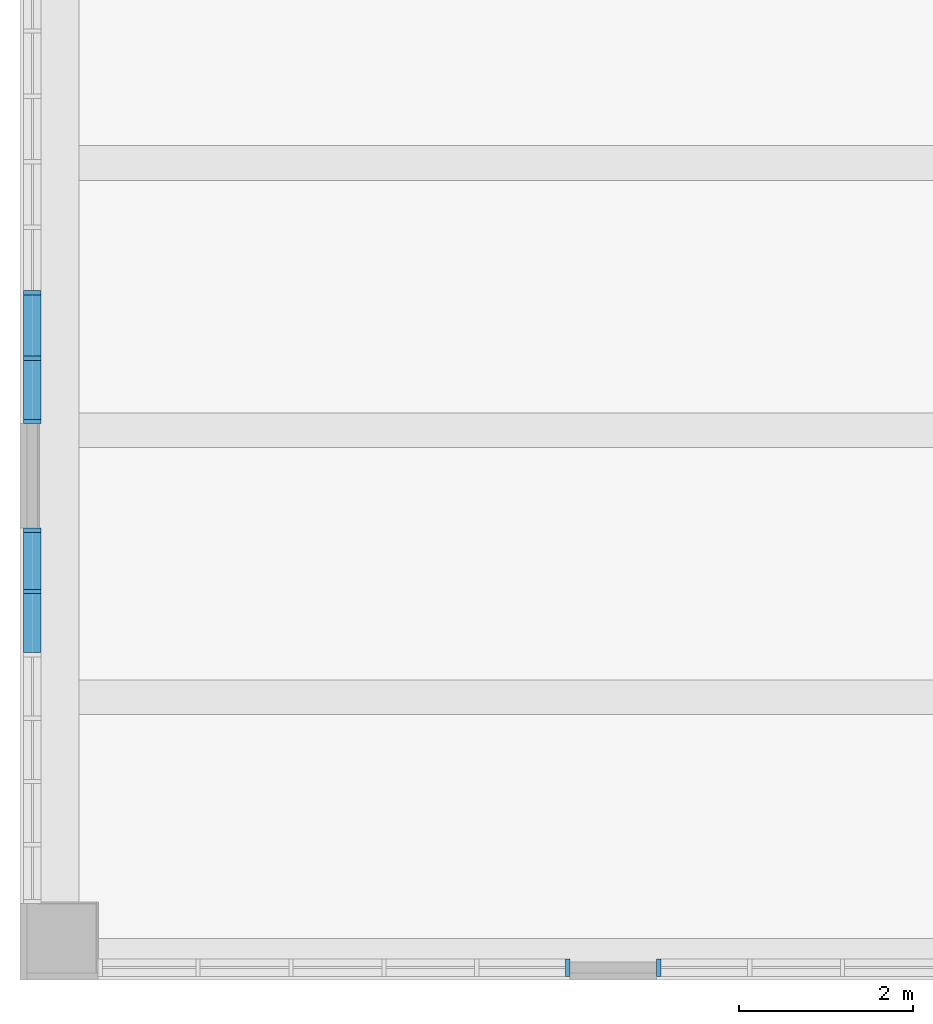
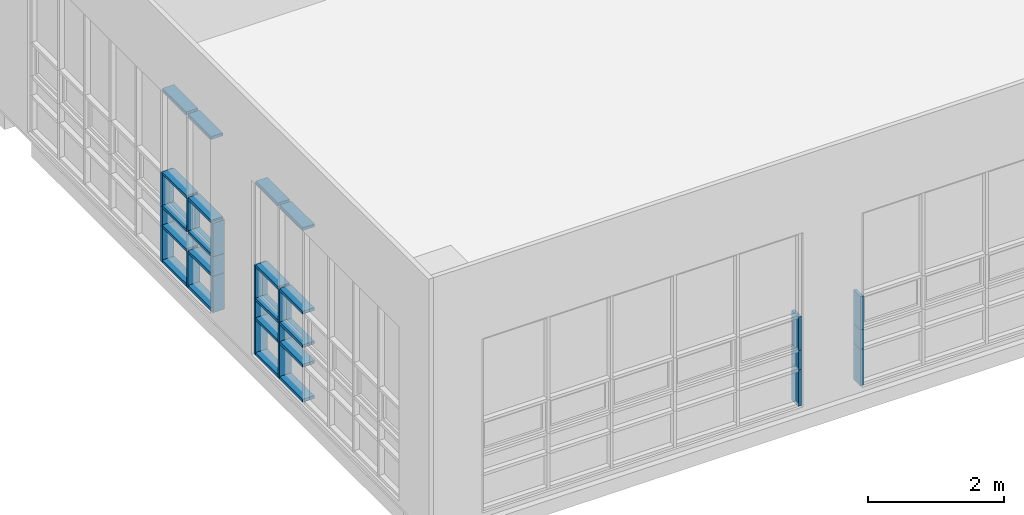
# One storey, part 13 of 74: 40 members, 4 elements without a shape of their own.
"""IFC2X3 building model written with IfcOpenShell, lengths in millimetres."""

from ifc_helpers import new_model, entity, si_unit, converted_unit, derived_unit, direction, frame, origin, origin_2d_with_axis, place, context, subcontext, project, spatial, rectangle, extrude, source, transform, mapped, material, type_object, type_shapes, element, aggregate, save


model = new_model("IFC2X3")

# Units and contexts
model_context = context("Model", 3, precision=0.01, world=origin(), true_north=direction((6.123031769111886e-17, 1.0)))
body_context = subcontext(model_context, "Body", "Model", "MODEL_VIEW")
ifc_project = project(units=[si_unit("LENGTHUNIT", "METRE", prefix="MILLI"), si_unit("AREAUNIT", "SQUARE_METRE"), si_unit("VOLUMEUNIT", "CUBIC_METRE"), converted_unit("PLANEANGLEUNIT", "DEGREE", entity("IfcRatioMeasure", 0.017453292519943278), si_unit("PLANEANGLEUNIT", "RADIAN"), dimensions=[0, 0, 0, 0, 0, 0, 0]), si_unit("MASSUNIT", "GRAM", prefix="KILO"), derived_unit("MASSDENSITYUNIT", [(si_unit("MASSUNIT", "GRAM", prefix="KILO"), 1), (si_unit("LENGTHUNIT", "METRE"), -3)]), derived_unit("MOMENTOFINERTIAUNIT", [(si_unit("LENGTHUNIT", "METRE"), 4)]), si_unit("TIMEUNIT", "SECOND"), si_unit("FREQUENCYUNIT", "HERTZ"), si_unit("THERMODYNAMICTEMPERATUREUNIT", "DEGREE_CELSIUS"), derived_unit("THERMALTRANSMITTANCEUNIT", [(si_unit("MASSUNIT", "GRAM", prefix="KILO"), 1), (si_unit("THERMODYNAMICTEMPERATUREUNIT", "KELVIN"), -1), (si_unit("TIMEUNIT", "SECOND"), -3)]), derived_unit("VOLUMETRICFLOWRATEUNIT", [(si_unit("LENGTHUNIT", "METRE"), 3), (si_unit("TIMEUNIT", "SECOND"), -1)]), derived_unit("MASSFLOWRATEUNIT", [(si_unit("MASSUNIT", "GRAM", prefix="KILO"), 1), (si_unit("TIMEUNIT", "SECOND"), -1)]), derived_unit("ROTATIONALFREQUENCYUNIT", [(si_unit("TIMEUNIT", "SECOND"), -1)]), si_unit("ELECTRICCURRENTUNIT", "AMPERE"), si_unit("ELECTRICVOLTAGEUNIT", "VOLT"), si_unit("POWERUNIT", "WATT"), si_unit("FORCEUNIT", "NEWTON", prefix="KILO"), si_unit("ILLUMINANCEUNIT", "LUX"), si_unit("LUMINOUSFLUXUNIT", "LUMEN"), si_unit("LUMINOUSINTENSITYUNIT", "CANDELA"), derived_unit("USERDEFINED", [(si_unit("MASSUNIT", "GRAM", prefix="KILO"), -1), (si_unit("LENGTHUNIT", "METRE"), -2), (si_unit("TIMEUNIT", "SECOND"), 3), (si_unit("LUMINOUSFLUXUNIT", "LUMEN"), 1)]), derived_unit("SOUNDPOWERUNIT", [(si_unit("MASSUNIT", "GRAM", prefix="KILO"), 1), (si_unit("LENGTHUNIT", "METRE"), 2), (si_unit("TIMEUNIT", "SECOND"), -3)]), derived_unit("SOUNDPRESSUREUNIT", [(si_unit("MASSUNIT", "GRAM", prefix="KILO"), 1), (si_unit("LENGTHUNIT", "METRE"), -1), (si_unit("TIMEUNIT", "SECOND"), -2)]), derived_unit("LINEARVELOCITYUNIT", [(si_unit("LENGTHUNIT", "METRE"), 1), (si_unit("TIMEUNIT", "SECOND"), -1)]), si_unit("PRESSUREUNIT", "PASCAL"), derived_unit("USERDEFINED", [(si_unit("LENGTHUNIT", "METRE"), -2), (si_unit("MASSUNIT", "GRAM", prefix="KILO"), 1), (si_unit("TIMEUNIT", "SECOND"), -2)]), derived_unit("LINEARFORCEUNIT", [(si_unit("MASSUNIT", "GRAM", prefix="KILO"), 1), (si_unit("LENGTHUNIT", "METRE"), 1), (si_unit("TIMEUNIT", "SECOND"), -2), (si_unit("LENGTHUNIT", "METRE"), -1)]), derived_unit("PLANARFORCEUNIT", [(si_unit("MASSUNIT", "GRAM", prefix="KILO"), 1), (si_unit("LENGTHUNIT", "METRE"), 1), (si_unit("TIMEUNIT", "SECOND"), -2), (si_unit("LENGTHUNIT", "METRE"), -2)])], contexts=[model_context])

# Site, building, storey
site_placement = place(None, frame((-14167.972527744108, -657.2125860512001, 0.0)))
site = spatial("IfcSite", under=ifc_project, at=site_placement, Name="Default", CompositionType="ELEMENT")
building_placement = place(site_placement, origin())
building = spatial("IfcBuilding", under=site, at=building_placement, Name="Sample Building", CompositionType="ELEMENT")
storey_placement = place(building_placement, frame((0.0, 0.0, 4800.0)))
storey = spatial("IfcBuildingStorey", under=building, at=storey_placement, Name="지상 2층", CompositionType="ELEMENT", Elevation=4800.000000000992)

# Curtain wall, members
curtain_wall_type = type_object("IfcCurtainWallType", Name="커튼월:CW112-스테인리스 스틸 커튼월", PredefinedType="NOTDEFINED")
curtain_wall_1_placement = place(storey_placement, frame((0.0, 0.0, -4800.0)))
curtain_wall_1 = element("IfcCurtainWall", 1, at=curtain_wall_1_placement, inside=storey, type_object=curtain_wall_type, Name="커튼월:CW112-스테인리스 스틸 커튼월", ObjectType="커튼월:CW112-스테인리스 스틸 커튼월")
ifc_material = material(Name="<Unnamed>")
member_type_1 = type_object("IfcMemberType", Name="직사각형 멀리언:CW200-직사각형 멀리언 50x200mm", PredefinedType="MULLION", material=ifc_material)
shared_shape_1 = source(origin(), body_context, "Body", "SweptSolid", [
    extrude(rectangle(XDim=200.0, YDim=50.0, at=origin_2d_with_axis()), frame((-25.0, 0.0, -600.0), z_axis=(0.0, 0.0, 1.0), x_axis=(0.0, -1.0, 0.0)), (0.0, 0.0, 1.0), 600.0),
])
type_shapes(member_type_1, [shared_shape_1])
member_1_placement = place(curtain_wall_1_placement, frame((14129.839654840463, 5679.474664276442, 6480.0), z_axis=(0.0, 0.0, 1.0), x_axis=(0.0, 1.0, 0.0)))
member_1 = element("IfcMember", 2, at=member_1_placement, type_object=member_type_1, material=ifc_material, Name="직사각형 멀리언:CW200-직사각형 멀리언 50x200mm", ObjectType="직사각형 멀리언:CW200-직사각형 멀리언 50x200mm", context=body_context, shape_type="MappedRepresentation", body=[
    mapped(shared_shape_1, transform((0.0, 0.0, 0.0), scale=1.0)),
])
member_type_2 = type_object("IfcMemberType", Name="직사각형 멀리언:CW200-직사각형 멀리언 50x200mm", PredefinedType="MULLION", material=ifc_material)
shared_shape_2 = source(origin(), body_context, "Body", "SweptSolid", [
    extrude(rectangle(XDim=200.0, YDim=50.0, at=origin_2d_with_axis()), frame((0.0, 0.0, -650.0), z_axis=(0.0, 0.0, 1.0), x_axis=(0.0, -1.0, 0.0)), (0.0, 0.0, 1.0), 650.0000000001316),
])
type_shapes(member_type_2, [shared_shape_2])
member_2_placement = place(curtain_wall_1_placement, frame((14129.839654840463, 4950.307997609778, 4880.0), z_axis=(0.0, 0.0, -1.0), x_axis=(0.0, -1.0, 0.0)))
member_2 = element("IfcMember", 3, at=member_2_placement, type_object=member_type_2, material=ifc_material, Name="직사각형 멀리언:CW200-직사각형 멀리언 50x200mm", ObjectType="직사각형 멀리언:CW200-직사각형 멀리언 50x200mm", context=body_context, shape_type="MappedRepresentation", body=[
    mapped(shared_shape_2, transform((0.0, 0.0, 0.0), scale=1.0)),
])
member_type_3 = type_object("IfcMemberType", Name="직사각형 멀리언:CW200-직사각형 멀리언 50x200mm", PredefinedType="MULLION", material=ifc_material)
shared_shape_3 = source(origin(), body_context, "Body", "SweptSolid", [
    extrude(rectangle(XDim=200.0, YDim=50.0, at=origin_2d_with_axis()), frame((-25.0, 0.0, -350.0), z_axis=(0.0, 0.0, 1.0), x_axis=(0.0, -1.0, 0.0)), (0.0, 0.0, 1.0), 350.00000000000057),
])
type_shapes(member_type_3, [shared_shape_3])
member_3_placement = place(curtain_wall_1_placement, frame((14129.839654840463, 5679.474664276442, 5880.0), z_axis=(0.0, 0.0, 1.0), x_axis=(0.0, 1.0, 0.0)))
member_3 = element("IfcMember", 4, at=member_3_placement, type_object=member_type_3, material=ifc_material, Name="직사각형 멀리언:CW200-직사각형 멀리언 50x200mm", ObjectType="직사각형 멀리언:CW200-직사각형 멀리언 50x200mm", context=body_context, shape_type="MappedRepresentation", body=[
    mapped(shared_shape_3, transform((0.0, 0.0, 0.0), scale=1.0)),
])
member_type_4 = type_object("IfcMemberType", Name="직사각형 멀리언:CW200-직사각형 멀리언 50x200mm", PredefinedType="MULLION", material=ifc_material)
shared_shape_4 = source(origin(), body_context, "Body", "SweptSolid", [
    extrude(rectangle(XDim=200.0, YDim=50.0, at=origin_2d_with_axis()), frame((0.0, 0.0, -600.0), z_axis=(0.0, 0.0, 1.0), x_axis=(0.0, -1.0, 0.0)), (0.0, 0.0, 1.0), 600.0),
])
type_shapes(member_type_4, [shared_shape_4])
member_4_placement = place(curtain_wall_1_placement, frame((14129.839654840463, 4950.307997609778, 5880.0), z_axis=(0.0, 0.0, -1.0), x_axis=(0.0, -1.0, 0.0)))
member_4 = element("IfcMember", 5, at=member_4_placement, type_object=member_type_4, material=ifc_material, Name="직사각형 멀리언:CW200-직사각형 멀리언 50x200mm", ObjectType="직사각형 멀리언:CW200-직사각형 멀리언 50x200mm", context=body_context, shape_type="MappedRepresentation", body=[
    mapped(shared_shape_4, transform((0.0, 0.0, 0.0), scale=1.0)),
])
member_type_5 = type_object("IfcMemberType", Name="직사각형 멀리언:CW200-직사각형 멀리언 50x200mm", PredefinedType="MULLION", material=ifc_material)
shared_shape_5 = source(origin(), body_context, "Body", "SweptSolid", [
    extrude(rectangle(XDim=200.0, YDim=50.0, at=origin_2d_with_axis()), frame((-25.0, 0.0, -650.0), z_axis=(0.0, 0.0, 1.0), x_axis=(0.0, -1.0, 0.0)), (0.0, 0.0, 1.0), 650.0000000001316),
])
type_shapes(member_type_5, [shared_shape_5])
member_5_placement = place(curtain_wall_1_placement, frame((14129.839654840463, 5679.474664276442, 5530.0), z_axis=(0.0, 0.0, 1.0), x_axis=(0.0, 1.0, 0.0)))
member_5 = element("IfcMember", 6, at=member_5_placement, type_object=member_type_5, material=ifc_material, Name="직사각형 멀리언:CW200-직사각형 멀리언 50x200mm", ObjectType="직사각형 멀리언:CW200-직사각형 멀리언 50x200mm", context=body_context, shape_type="MappedRepresentation", body=[
    mapped(shared_shape_5, transform((0.0, 0.0, 0.0), scale=1.0)),
])
member_type_6 = type_object("IfcMemberType", Name="직사각형 멀리언:CW200-직사각형 멀리언 50x200mm", PredefinedType="MULLION", material=ifc_material)
shared_shape_6 = source(origin(), body_context, "Body", "SweptSolid", [
    extrude(rectangle(XDim=200.0, YDim=50.0, at=origin_2d_with_axis()), frame((0.0, 0.0, -350.0), z_axis=(0.0, 0.0, 1.0), x_axis=(0.0, -1.0, 0.0)), (0.0, 0.0, 1.0), 350.00000000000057),
])
type_shapes(member_type_6, [shared_shape_6])
member_6_placement = place(curtain_wall_1_placement, frame((14129.839654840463, 4950.307997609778, 5530.0), z_axis=(0.0, 0.0, -1.0), x_axis=(0.0, -1.0, 0.0)))
member_6 = element("IfcMember", 7, at=member_6_placement, type_object=member_type_6, material=ifc_material, Name="직사각형 멀리언:CW200-직사각형 멀리언 50x200mm", ObjectType="직사각형 멀리언:CW200-직사각형 멀리언 50x200mm", context=body_context, shape_type="MappedRepresentation", body=[
    mapped(shared_shape_6, transform((0.0, 0.0, 0.0), scale=1.0)),
])

# Curtain wall, member
curtain_wall_2_placement = place(storey_placement, frame((0.0, 0.0, -4800.0)))
curtain_wall_2 = element("IfcCurtainWall", 8, at=curtain_wall_2_placement, inside=storey, type_object=curtain_wall_type, Name="커튼월:CW112-스테인리스 스틸 커튼월", ObjectType="커튼월:CW112-스테인리스 스틸 커튼월")
member_type_7 = type_object("IfcMemberType", Name="직사각형 멀리언:CW200-직사각형 멀리언 50x200mm", PredefinedType="MULLION", material=ifc_material)
shared_shape_7 = source(origin(), body_context, "Body", "SweptSolid", [
    extrude(rectangle(XDim=200.0, YDim=50.0, at=origin_2d_with_axis()), frame((-25.0, 0.0, -650.0), z_axis=(0.0, 0.0, 1.0), x_axis=(0.0, -1.0, 0.0)), (0.0, 0.0, 1.0), 650.0000000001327),
])
type_shapes(member_type_7, [shared_shape_7])
member_7_placement = place(curtain_wall_2_placement, frame((14130.47257087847, 6882.21227524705, 4880.0), z_axis=(0.0, 0.0, -1.0), x_axis=(0.0, -1.0, 0.0)))
member_7 = element("IfcMember", 9, at=member_7_placement, type_object=member_type_7, material=ifc_material, Name="직사각형 멀리언:CW200-직사각형 멀리언 50x200mm", ObjectType="직사각형 멀리언:CW200-직사각형 멀리언 50x200mm", context=body_context, shape_type="MappedRepresentation", body=[
    mapped(shared_shape_7, transform((0.0, 0.0, 0.0), scale=1.0)),
])

curtain_wall_3_placement = place(storey_placement, frame((0.0, 0.0, -4800.0)))
curtain_wall_3 = element("IfcCurtainWall", 10, at=curtain_wall_3_placement, inside=storey, type_object=curtain_wall_type, Name="커튼월:CW112-스테인리스 스틸 커튼월", ObjectType="커튼월:CW112-스테인리스 스틸 커튼월")
member_8_placement = place(curtain_wall_3_placement, frame((20317.99848593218, 619.7122951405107, 4880.0), z_axis=(0.0, 0.0, -1.0), x_axis=(1.0, 0.0, 0.0)))
member_8 = element("IfcMember", 11, at=member_8_placement, type_object=member_type_7, material=ifc_material, Name="직사각형 멀리언:CW200-직사각형 멀리언 50x200mm", ObjectType="직사각형 멀리언:CW200-직사각형 멀리언 50x200mm", context=body_context, shape_type="MappedRepresentation", body=[
    mapped(shared_shape_7, transform((0.0, 0.0, 0.0), scale=1.0)),
])

# Member
member_type_8 = type_object("IfcMemberType", Name="직사각형 멀리언:CW200-직사각형 멀리언 50x200mm", PredefinedType="MULLION", material=ifc_material)
shared_shape_8 = source(origin(), body_context, "Body", "SweptSolid", [
    extrude(rectangle(XDim=200.0, YDim=50.0, at=origin_2d_with_axis()), frame((0.0, 0.0, -650.0), z_axis=(0.0, 0.0, 1.0), x_axis=(0.0, -1.0, 0.0)), (0.0, 0.0, 1.0), 650.0000000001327),
])
type_shapes(member_type_8, [shared_shape_8])
member_9_placement = place(curtain_wall_2_placement, frame((14130.472570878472, 8389.35513238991, 4880.0), z_axis=(0.0, 0.0, -1.0), x_axis=(0.0, -1.0, 0.0)))
member_9 = element("IfcMember", 12, at=member_9_placement, type_object=member_type_8, material=ifc_material, Name="직사각형 멀리언:CW200-직사각형 멀리언 50x200mm", ObjectType="직사각형 멀리언:CW200-직사각형 멀리언 50x200mm", context=body_context, shape_type="MappedRepresentation", body=[
    mapped(shared_shape_8, transform((0.0, 0.0, 0.0), scale=1.0)),
])

member_10_placement = place(curtain_wall_2_placement, frame((14130.472570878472, 7635.783703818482, 4880.0), z_axis=(0.0, 0.0, -1.0), x_axis=(0.0, -1.0, 0.0)))
member_10 = element("IfcMember", 13, at=member_10_placement, type_object=member_type_8, material=ifc_material, Name="직사각형 멀리언:CW200-직사각형 멀리언 50x200mm", ObjectType="직사각형 멀리언:CW200-직사각형 멀리언 50x200mm", context=body_context, shape_type="MappedRepresentation", body=[
    mapped(shared_shape_8, transform((0.0, 0.0, 0.0), scale=1.0)),
])

# Curtain wall, member
curtain_wall_4_placement = place(storey_placement, frame((0.0, 0.0, -4800.0)))
curtain_wall_4 = element("IfcCurtainWall", 14, at=curtain_wall_4_placement, inside=storey, type_object=curtain_wall_type, Name="커튼월:CW112-스테인리스 스틸 커튼월", ObjectType="커튼월:CW112-스테인리스 스틸 커튼월")
member_type_9 = type_object("IfcMemberType", Name="직사각형 멀리언:CW200-직사각형 멀리언 50x200mm", PredefinedType="MULLION", material=ifc_material)
shared_shape_9 = source(origin(), body_context, "Body", "SweptSolid", [
    extrude(rectangle(XDim=200.0, YDim=50.0, at=origin_2d_with_axis()), frame((-25.0, 0.0, -600.0), z_axis=(0.0, 0.0, 1.0), x_axis=(0.0, -1.0, 0.0)), (0.0, 0.0, 1.0), 600.0),
])
type_shapes(member_type_9, [shared_shape_9])
member_11_placement = place(curtain_wall_4_placement, frame((21317.857532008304, 619.7122951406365, 6480.0), z_axis=(0.0, 0.0, 1.0), x_axis=(-1.0, 0.0, 0.0)))
member_11 = element("IfcMember", 15, at=member_11_placement, type_object=member_type_9, material=ifc_material, Name="직사각형 멀리언:CW200-직사각형 멀리언 50x200mm", ObjectType="직사각형 멀리언:CW200-직사각형 멀리언 50x200mm", context=body_context, shape_type="MappedRepresentation", body=[
    mapped(shared_shape_9, transform((0.0, 0.0, 0.0), scale=1.0)),
])

# Member
member_type_10 = type_object("IfcMemberType", Name="직사각형 멀리언:CW200-직사각형 멀리언 50x200mm", PredefinedType="MULLION", material=ifc_material)
shared_shape_10 = source(origin(), body_context, "Body", "SweptSolid", [
    extrude(rectangle(XDim=200.0, YDim=50.0, at=origin_2d_with_axis()), frame((-25.0, 0.0, -600.0), z_axis=(0.0, 0.0, 1.0), x_axis=(0.0, -1.0, 0.0)), (0.0, 0.0, 1.0), 600.0),
])
type_shapes(member_type_10, [shared_shape_10])
member_12_placement = place(curtain_wall_2_placement, frame((14130.47257087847, 6882.21227524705, 5880.0), z_axis=(0.0, 0.0, -1.0), x_axis=(0.0, -1.0, 0.0)))
member_12 = element("IfcMember", 16, at=member_12_placement, type_object=member_type_10, material=ifc_material, Name="직사각형 멀리언:CW200-직사각형 멀리언 50x200mm", ObjectType="직사각형 멀리언:CW200-직사각형 멀리언 50x200mm", context=body_context, shape_type="MappedRepresentation", body=[
    mapped(shared_shape_10, transform((0.0, 0.0, 0.0), scale=1.0)),
])

member_13_placement = place(curtain_wall_3_placement, frame((20317.99848593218, 619.7122951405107, 5880.0), z_axis=(0.0, 0.0, -1.0), x_axis=(1.0, 0.0, 0.0)))
member_13 = element("IfcMember", 17, at=member_13_placement, type_object=member_type_10, material=ifc_material, Name="직사각형 멀리언:CW200-직사각형 멀리언 50x200mm", ObjectType="직사각형 멀리언:CW200-직사각형 멀리언 50x200mm", context=body_context, shape_type="MappedRepresentation", body=[
    mapped(shared_shape_10, transform((0.0, 0.0, 0.0), scale=1.0)),
])

member_type_11 = type_object("IfcMemberType", Name="직사각형 멀리언:CW200-직사각형 멀리언 50x200mm", PredefinedType="MULLION", material=ifc_material)
shared_shape_11 = source(origin(), body_context, "Body", "SweptSolid", [
    extrude(rectangle(XDim=200.0, YDim=50.0, at=origin_2d_with_axis()), frame((-25.0, 0.0, -350.0), z_axis=(0.0, 0.0, 1.0), x_axis=(0.0, -1.0, 0.0)), (0.0, 0.0, 1.0), 349.9999999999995),
])
type_shapes(member_type_11, [shared_shape_11])
member_14_placement = place(curtain_wall_4_placement, frame((21317.857532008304, 619.7122951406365, 5880.0), z_axis=(0.0, 0.0, 1.0), x_axis=(-1.0, 0.0, 0.0)))
member_14 = element("IfcMember", 18, at=member_14_placement, type_object=member_type_11, material=ifc_material, Name="직사각형 멀리언:CW200-직사각형 멀리언 50x200mm", ObjectType="직사각형 멀리언:CW200-직사각형 멀리언 50x200mm", context=body_context, shape_type="MappedRepresentation", body=[
    mapped(shared_shape_11, transform((0.0, 0.0, 0.0), scale=1.0)),
])

member_type_12 = type_object("IfcMemberType", Name="직사각형 멀리언:CW200-직사각형 멀리언 50x200mm", PredefinedType="MULLION", material=ifc_material)
shared_shape_12 = source(origin(), body_context, "Body", "SweptSolid", [
    extrude(rectangle(XDim=200.0, YDim=50.0, at=origin_2d_with_axis()), frame((0.0, 0.0, -600.0), z_axis=(0.0, 0.0, 1.0), x_axis=(0.0, -1.0, 0.0)), (0.0, 0.0, 1.0), 600.0),
])
type_shapes(member_type_12, [shared_shape_12])
member_15_placement = place(curtain_wall_2_placement, frame((14130.472570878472, 8389.35513238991, 5880.0), z_axis=(0.0, 0.0, -1.0), x_axis=(0.0, -1.0, 0.0)))
member_15 = element("IfcMember", 19, at=member_15_placement, type_object=member_type_12, material=ifc_material, Name="직사각형 멀리언:CW200-직사각형 멀리언 50x200mm", ObjectType="직사각형 멀리언:CW200-직사각형 멀리언 50x200mm", context=body_context, shape_type="MappedRepresentation", body=[
    mapped(shared_shape_12, transform((0.0, 0.0, 0.0), scale=1.0)),
])

member_16_placement = place(curtain_wall_2_placement, frame((14130.472570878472, 7635.783703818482, 5880.0), z_axis=(0.0, 0.0, -1.0), x_axis=(0.0, -1.0, 0.0)))
member_16 = element("IfcMember", 20, at=member_16_placement, type_object=member_type_12, material=ifc_material, Name="직사각형 멀리언:CW200-직사각형 멀리언 50x200mm", ObjectType="직사각형 멀리언:CW200-직사각형 멀리언 50x200mm", context=body_context, shape_type="MappedRepresentation", body=[
    mapped(shared_shape_12, transform((0.0, 0.0, 0.0), scale=1.0)),
])

member_type_13 = type_object("IfcMemberType", Name="직사각형 멀리언:CW200-직사각형 멀리언 50x200mm", PredefinedType="MULLION", material=ifc_material)
shared_shape_13 = source(origin(), body_context, "Body", "SweptSolid", [
    extrude(rectangle(XDim=200.0, YDim=50.0, at=origin_2d_with_axis()), frame((-25.0, 0.0, -350.0), z_axis=(0.0, 0.0, 1.0), x_axis=(0.0, -1.0, 0.0)), (0.0, 0.0, 1.0), 349.9999999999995),
])
type_shapes(member_type_13, [shared_shape_13])
member_17_placement = place(curtain_wall_2_placement, frame((14130.47257087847, 6882.21227524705, 5530.0), z_axis=(0.0, 0.0, -1.0), x_axis=(0.0, -1.0, 0.0)))
member_17 = element("IfcMember", 21, at=member_17_placement, type_object=member_type_13, material=ifc_material, Name="직사각형 멀리언:CW200-직사각형 멀리언 50x200mm", ObjectType="직사각형 멀리언:CW200-직사각형 멀리언 50x200mm", context=body_context, shape_type="MappedRepresentation", body=[
    mapped(shared_shape_13, transform((0.0, 0.0, 0.0), scale=1.0)),
])

member_18_placement = place(curtain_wall_3_placement, frame((20317.99848593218, 619.7122951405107, 5530.0), z_axis=(0.0, 0.0, -1.0), x_axis=(1.0, 0.0, 0.0)))
member_18 = element("IfcMember", 22, at=member_18_placement, type_object=member_type_13, material=ifc_material, Name="직사각형 멀리언:CW200-직사각형 멀리언 50x200mm", ObjectType="직사각형 멀리언:CW200-직사각형 멀리언 50x200mm", context=body_context, shape_type="MappedRepresentation", body=[
    mapped(shared_shape_13, transform((0.0, 0.0, 0.0), scale=1.0)),
])

aggregate(curtain_wall_3, [member_8, member_13, member_18])

member_type_14 = type_object("IfcMemberType", Name="직사각형 멀리언:CW200-직사각형 멀리언 50x200mm", PredefinedType="MULLION", material=ifc_material)
shared_shape_14 = source(origin(), body_context, "Body", "SweptSolid", [
    extrude(rectangle(XDim=200.0, YDim=50.0, at=origin_2d_with_axis()), frame((-25.0, 0.0, -650.0), z_axis=(0.0, 0.0, 1.0), x_axis=(0.0, -1.0, 0.0)), (0.0, 0.0, 1.0), 650.0000000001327),
])
type_shapes(member_type_14, [shared_shape_14])
member_19_placement = place(curtain_wall_4_placement, frame((21317.857532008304, 619.7122951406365, 5530.0), z_axis=(0.0, 0.0, 1.0), x_axis=(-1.0, 0.0, 0.0)))
member_19 = element("IfcMember", 23, at=member_19_placement, type_object=member_type_14, material=ifc_material, Name="직사각형 멀리언:CW200-직사각형 멀리언 50x200mm", ObjectType="직사각형 멀리언:CW200-직사각형 멀리언 50x200mm", context=body_context, shape_type="MappedRepresentation", body=[
    mapped(shared_shape_14, transform((0.0, 0.0, 0.0), scale=1.0)),
])

aggregate(curtain_wall_4, [member_11, member_14, member_19])

member_type_15 = type_object("IfcMemberType", Name="직사각형 멀리언:CW200-직사각형 멀리언 50x200mm", PredefinedType="MULLION", material=ifc_material)
shared_shape_15 = source(origin(), body_context, "Body", "SweptSolid", [
    extrude(rectangle(XDim=200.0, YDim=50.0, at=origin_2d_with_axis()), frame((0.0, 0.0, -350.0), z_axis=(0.0, 0.0, 1.0), x_axis=(0.0, -1.0, 0.0)), (0.0, 0.0, 1.0), 349.9999999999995),
])
type_shapes(member_type_15, [shared_shape_15])
member_20_placement = place(curtain_wall_2_placement, frame((14130.472570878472, 8389.35513238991, 5530.0), z_axis=(0.0, 0.0, -1.0), x_axis=(0.0, -1.0, 0.0)))
member_20 = element("IfcMember", 24, at=member_20_placement, type_object=member_type_15, material=ifc_material, Name="직사각형 멀리언:CW200-직사각형 멀리언 50x200mm", ObjectType="직사각형 멀리언:CW200-직사각형 멀리언 50x200mm", context=body_context, shape_type="MappedRepresentation", body=[
    mapped(shared_shape_15, transform((0.0, 0.0, 0.0), scale=1.0)),
])

member_type_16 = type_object("IfcMemberType", Name="직사각형 멀리언:CW200-직사각형 멀리언 50x200mm", PredefinedType="MULLION", material=ifc_material)
shared_shape_16 = source(origin(), body_context, "Body", "SweptSolid", [
    extrude(rectangle(XDim=200.0, YDim=50.0, at=origin_2d_with_axis()), frame((-25.0, 0.0, -678.5714285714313), z_axis=(0.0, 0.0, 1.0), x_axis=(0.0, -1.0, 0.0)), (0.0, 0.0, 1.0), 678.5714285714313),
])
type_shapes(member_type_16, [shared_shape_16])
member_21_placement = place(curtain_wall_2_placement, frame((14130.47257087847, 6932.2122752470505, 8000.0), z_axis=(0.0, -1.0, 0.0), x_axis=(0.0, 0.0, 1.0)))
member_21 = element("IfcMember", 25, at=member_21_placement, type_object=member_type_16, material=ifc_material, Name="직사각형 멀리언:CW200-직사각형 멀리언 50x200mm", ObjectType="직사각형 멀리언:CW200-직사각형 멀리언 50x200mm", context=body_context, shape_type="MappedRepresentation", body=[
    mapped(shared_shape_16, transform((0.0, 0.0, 0.0), scale=1.0)),
])

member_type_17 = type_object("IfcMemberType", Name="직사각형 멀리언:CW200-직사각형 멀리언 50x200mm", PredefinedType="MULLION", material=ifc_material)
shared_shape_17 = source(origin(), body_context, "Body", "SweptSolid", [
    extrude(rectangle(XDim=200.0, YDim=50.0, at=origin_2d_with_axis()), frame((-25.0, 0.0, -703.5714285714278), z_axis=(0.0, 0.0, 1.0), x_axis=(0.0, -1.0, 0.0)), (0.0, 0.0, 1.0), 703.5714285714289),
])
type_shapes(member_type_17, [shared_shape_17])
member_22_placement = place(curtain_wall_2_placement, frame((14130.472570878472, 8364.35513238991, 4880.0), z_axis=(0.0, 1.0, 0.0), x_axis=(0.0, 0.0, -1.0)))
member_22 = element("IfcMember", 26, at=member_22_placement, type_object=member_type_17, material=ifc_material, Name="직사각형 멀리언:CW200-직사각형 멀리언 50x200mm", ObjectType="직사각형 멀리언:CW200-직사각형 멀리언 50x200mm", context=body_context, shape_type="MappedRepresentation", body=[
    mapped(shared_shape_17, transform((0.0, 0.0, 0.0), scale=1.0)),
])

member_type_18 = type_object("IfcMemberType", Name="직사각형 멀리언:CW200-직사각형 멀리언 50x200mm", PredefinedType="MULLION", material=ifc_material)
shared_shape_18 = source(origin(), body_context, "Body", "SweptSolid", [
    extrude(rectangle(XDim=200.0, YDim=50.0, at=origin_2d_with_axis()), frame((-25.0, 0.0, -703.5714285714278), z_axis=(0.0, 0.0, 1.0), x_axis=(0.0, -1.0, 0.0)), (0.0, 0.0, 1.0), 703.5714285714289),
])
type_shapes(member_type_18, [shared_shape_18])
member_23_placement = place(curtain_wall_2_placement, frame((14130.472570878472, 7660.783703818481, 8000.0), z_axis=(0.0, -1.0, 0.0), x_axis=(0.0, 0.0, 1.0)))
member_23 = element("IfcMember", 27, at=member_23_placement, type_object=member_type_18, material=ifc_material, Name="직사각형 멀리언:CW200-직사각형 멀리언 50x200mm", ObjectType="직사각형 멀리언:CW200-직사각형 멀리언 50x200mm", context=body_context, shape_type="MappedRepresentation", body=[
    mapped(shared_shape_18, transform((0.0, 0.0, 0.0), scale=1.0)),
])

member_type_19 = type_object("IfcMemberType", Name="직사각형 멀리언:CW200-직사각형 멀리언 50x200mm", PredefinedType="MULLION", material=ifc_material)
shared_shape_19 = source(origin(), body_context, "Body", "SweptSolid", [
    extrude(rectangle(XDim=200.0, YDim=50.0, at=origin_2d_with_axis()), frame((0.0, 0.0, -703.5714285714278), z_axis=(0.0, 0.0, 1.0), x_axis=(0.0, -1.0, 0.0)), (0.0, 0.0, 1.0), 703.5714285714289),
])
type_shapes(member_type_19, [shared_shape_19])
member_24_placement = place(curtain_wall_2_placement, frame((14130.472570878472, 7660.783703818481, 6480.0), z_axis=(0.0, -1.0, 0.0), x_axis=(0.0, 0.0, 1.0)))
member_24 = element("IfcMember", 28, at=member_24_placement, type_object=member_type_19, material=ifc_material, Name="직사각형 멀리언:CW200-직사각형 멀리언 50x200mm", ObjectType="직사각형 멀리언:CW200-직사각형 멀리언 50x200mm", context=body_context, shape_type="MappedRepresentation", body=[
    mapped(shared_shape_19, transform((0.0, 0.0, 0.0), scale=1.0)),
])

member_25_placement = place(curtain_wall_2_placement, frame((14130.472570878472, 7660.783703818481, 5880.0), z_axis=(0.0, -1.0, 0.0), x_axis=(0.0, 0.0, 1.0)))
member_25 = element("IfcMember", 29, at=member_25_placement, type_object=member_type_19, material=ifc_material, Name="직사각형 멀리언:CW200-직사각형 멀리언 50x200mm", ObjectType="직사각형 멀리언:CW200-직사각형 멀리언 50x200mm", context=body_context, shape_type="MappedRepresentation", body=[
    mapped(shared_shape_19, transform((0.0, 0.0, 0.0), scale=1.0)),
])

member_26_placement = place(curtain_wall_2_placement, frame((14130.472570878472, 7660.783703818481, 5530.0), z_axis=(0.0, -1.0, 0.0), x_axis=(0.0, 0.0, 1.0)))
member_26 = element("IfcMember", 30, at=member_26_placement, type_object=member_type_19, material=ifc_material, Name="직사각형 멀리언:CW200-직사각형 멀리언 50x200mm", ObjectType="직사각형 멀리언:CW200-직사각형 멀리언 50x200mm", context=body_context, shape_type="MappedRepresentation", body=[
    mapped(shared_shape_19, transform((0.0, 0.0, 0.0), scale=1.0)),
])

member_type_20 = type_object("IfcMemberType", Name="직사각형 멀리언:CW200-직사각형 멀리언 50x200mm", PredefinedType="MULLION", material=ifc_material)
shared_shape_20 = source(origin(), body_context, "Body", "SweptSolid", [
    extrude(rectangle(XDim=200.0, YDim=50.0, at=origin_2d_with_axis()), frame((-25.0, 0.0, -678.571428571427), z_axis=(0.0, 0.0, 1.0), x_axis=(0.0, -1.0, 0.0)), (0.0, 0.0, 1.0), 678.571428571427),
])
type_shapes(member_type_20, [shared_shape_20])
member_27_placement = place(curtain_wall_2_placement, frame((14130.472570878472, 7610.783703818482, 4880.0), z_axis=(0.0, 1.0, 0.0), x_axis=(0.0, 0.0, -1.0)))
member_27 = element("IfcMember", 31, at=member_27_placement, type_object=member_type_20, material=ifc_material, Name="직사각형 멀리언:CW200-직사각형 멀리언 50x200mm", ObjectType="직사각형 멀리언:CW200-직사각형 멀리언 50x200mm", context=body_context, shape_type="MappedRepresentation", body=[
    mapped(shared_shape_20, transform((0.0, 0.0, 0.0), scale=1.0)),
])

member_type_21 = type_object("IfcMemberType", Name="직사각형 멀리언:CW200-직사각형 멀리언 50x200mm", PredefinedType="MULLION", material=ifc_material)
shared_shape_21 = source(origin(), body_context, "Body", "SweptSolid", [
    extrude(rectangle(XDim=200.0, YDim=50.0, at=origin_2d_with_axis()), frame((0.0, 0.0, -678.5714285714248), z_axis=(0.0, 0.0, 1.0), x_axis=(0.0, -1.0, 0.0)), (0.0, 0.0, 1.0), 678.5714285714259),
])
type_shapes(member_type_21, [shared_shape_21])
member_28_placement = place(curtain_wall_2_placement, frame((14130.47257087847, 6932.2122752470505, 6480.0), z_axis=(0.0, -1.0, 0.0), x_axis=(0.0, 0.0, 1.0)))
member_28 = element("IfcMember", 32, at=member_28_placement, type_object=member_type_21, material=ifc_material, Name="직사각형 멀리언:CW200-직사각형 멀리언 50x200mm", ObjectType="직사각형 멀리언:CW200-직사각형 멀리언 50x200mm", context=body_context, shape_type="MappedRepresentation", body=[
    mapped(shared_shape_21, transform((0.0, 0.0, 0.0), scale=1.0)),
])

member_29_placement = place(curtain_wall_2_placement, frame((14130.47257087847, 6932.2122752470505, 5880.0), z_axis=(0.0, -1.0, 0.0), x_axis=(0.0, 0.0, 1.0)))
member_29 = element("IfcMember", 33, at=member_29_placement, type_object=member_type_21, material=ifc_material, Name="직사각형 멀리언:CW200-직사각형 멀리언 50x200mm", ObjectType="직사각형 멀리언:CW200-직사각형 멀리언 50x200mm", context=body_context, shape_type="MappedRepresentation", body=[
    mapped(shared_shape_21, transform((0.0, 0.0, 0.0), scale=1.0)),
])

member_30_placement = place(curtain_wall_2_placement, frame((14130.47257087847, 6932.2122752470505, 5530.0), z_axis=(0.0, -1.0, 0.0), x_axis=(0.0, 0.0, 1.0)))
member_30 = element("IfcMember", 34, at=member_30_placement, type_object=member_type_21, material=ifc_material, Name="직사각형 멀리언:CW200-직사각형 멀리언 50x200mm", ObjectType="직사각형 멀리언:CW200-직사각형 멀리언 50x200mm", context=body_context, shape_type="MappedRepresentation", body=[
    mapped(shared_shape_21, transform((0.0, 0.0, 0.0), scale=1.0)),
])

aggregate(curtain_wall_2, [member_21, member_7, member_22, member_24, member_9, member_23, member_27, member_28, member_10, member_12, member_25, member_29, member_15, member_16, member_17, member_26, member_30, member_20])

member_type_22 = type_object("IfcMemberType", Name="직사각형 멀리언:CW200-직사각형 멀리언 50x200mm", PredefinedType="MULLION", material=ifc_material)
shared_shape_22 = source(origin(), body_context, "Body", "SweptSolid", [
    extrude(rectangle(XDim=200.0, YDim=50.0, at=origin_2d_with_axis()), frame((-25.0, 0.0, -654.1666666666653), z_axis=(0.0, 0.0, 1.0), x_axis=(0.0, -1.0, 0.0)), (0.0, 0.0, 1.0), 654.1666666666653),
])
type_shapes(member_type_22, [shared_shape_22])
member_31_placement = place(curtain_wall_1_placement, frame((14129.839654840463, 5629.474664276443, 4880.0), z_axis=(0.0, 1.0, 0.0), x_axis=(0.0, 0.0, -1.0)))
member_31 = element("IfcMember", 35, at=member_31_placement, type_object=member_type_22, material=ifc_material, Name="직사각형 멀리언:CW200-직사각형 멀리언 50x200mm", ObjectType="직사각형 멀리언:CW200-직사각형 멀리언 50x200mm", context=body_context, shape_type="MappedRepresentation", body=[
    mapped(shared_shape_22, transform((0.0, 0.0, 0.0), scale=1.0)),
])

member_type_23 = type_object("IfcMemberType", Name="직사각형 멀리언:CW200-직사각형 멀리언 50x200mm", PredefinedType="MULLION", material=ifc_material)
shared_shape_23 = source(origin(), body_context, "Body", "SweptSolid", [
    extrude(rectangle(XDim=200.0, YDim=50.0, at=origin_2d_with_axis()), frame((-25.0, 0.0, -654.1666666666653), z_axis=(0.0, 0.0, 1.0), x_axis=(0.0, -1.0, 0.0)), (0.0, 0.0, 1.0), 654.1666666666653),
])
type_shapes(member_type_23, [shared_shape_23])
member_32_placement = place(curtain_wall_1_placement, frame((14129.839654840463, 4975.307997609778, 8000.0), z_axis=(0.0, -1.0, 0.0), x_axis=(0.0, 0.0, 1.0)))
member_32 = element("IfcMember", 36, at=member_32_placement, type_object=member_type_23, material=ifc_material, Name="직사각형 멀리언:CW200-직사각형 멀리언 50x200mm", ObjectType="직사각형 멀리언:CW200-직사각형 멀리언 50x200mm", context=body_context, shape_type="MappedRepresentation", body=[
    mapped(shared_shape_23, transform((0.0, 0.0, 0.0), scale=1.0)),
])

member_type_24 = type_object("IfcMemberType", Name="직사각형 멀리언:CW200-직사각형 멀리언 50x200mm", PredefinedType="MULLION", material=ifc_material)
shared_shape_24 = source(origin(), body_context, "Body", "SweptSolid", [
    extrude(rectangle(XDim=200.0, YDim=50.0, at=origin_2d_with_axis()), frame((-25.0, 0.0, -679.1666666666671), z_axis=(0.0, 0.0, 1.0), x_axis=(0.0, -1.0, 0.0)), (0.0, 0.0, 1.0), 679.1666666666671),
])
type_shapes(member_type_24, [shared_shape_24])
member_33_placement = place(curtain_wall_1_placement, frame((14129.839654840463, 4925.307997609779, 4880.0), z_axis=(0.0, 1.0, 0.0), x_axis=(0.0, 0.0, -1.0)))
member_33 = element("IfcMember", 37, at=member_33_placement, type_object=member_type_24, material=ifc_material, Name="직사각형 멀리언:CW200-직사각형 멀리언 50x200mm", ObjectType="직사각형 멀리언:CW200-직사각형 멀리언 50x200mm", context=body_context, shape_type="MappedRepresentation", body=[
    mapped(shared_shape_24, transform((0.0, 0.0, 0.0), scale=1.0)),
])

member_type_25 = type_object("IfcMemberType", Name="직사각형 멀리언:CW200-직사각형 멀리언 50x200mm", PredefinedType="MULLION", material=ifc_material)
shared_shape_25 = source(origin(), body_context, "Body", "SweptSolid", [
    extrude(rectangle(XDim=200.0, YDim=50.0, at=origin_2d_with_axis()), frame((-25.0, 0.0, -679.1666666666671), z_axis=(0.0, 0.0, 1.0), x_axis=(0.0, -1.0, 0.0)), (0.0, 0.0, 1.0), 679.1666666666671),
])
type_shapes(member_type_25, [shared_shape_25])
member_34_placement = place(curtain_wall_1_placement, frame((14129.839654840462, 4246.141330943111, 8000.0), z_axis=(0.0, -1.0, 0.0), x_axis=(0.0, 0.0, 1.0)))
member_34 = element("IfcMember", 38, at=member_34_placement, type_object=member_type_25, material=ifc_material, Name="직사각형 멀리언:CW200-직사각형 멀리언 50x200mm", ObjectType="직사각형 멀리언:CW200-직사각형 멀리언 50x200mm", context=body_context, shape_type="MappedRepresentation", body=[
    mapped(shared_shape_25, transform((0.0, 0.0, 0.0), scale=1.0)),
])

member_type_26 = type_object("IfcMemberType", Name="직사각형 멀리언:CW200-직사각형 멀리언 50x200mm", PredefinedType="MULLION", material=ifc_material)
shared_shape_26 = source(origin(), body_context, "Body", "SweptSolid", [
    extrude(rectangle(XDim=200.0, YDim=50.0, at=origin_2d_with_axis()), frame((0.0, 0.0, -654.1666666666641), z_axis=(0.0, 0.0, 1.0), x_axis=(0.0, -1.0, 0.0)), (0.0, 0.0, 1.0), 654.1666666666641),
])
type_shapes(member_type_26, [shared_shape_26])
member_35_placement = place(curtain_wall_1_placement, frame((14129.839654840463, 4975.307997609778, 6480.0), z_axis=(0.0, -1.0, 0.0), x_axis=(0.0, 0.0, 1.0)))
member_35 = element("IfcMember", 39, at=member_35_placement, type_object=member_type_26, material=ifc_material, Name="직사각형 멀리언:CW200-직사각형 멀리언 50x200mm", ObjectType="직사각형 멀리언:CW200-직사각형 멀리언 50x200mm", context=body_context, shape_type="MappedRepresentation", body=[
    mapped(shared_shape_26, transform((0.0, 0.0, 0.0), scale=1.0)),
])

member_36_placement = place(curtain_wall_1_placement, frame((14129.839654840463, 4975.307997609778, 5880.0), z_axis=(0.0, -1.0, 0.0), x_axis=(0.0, 0.0, 1.0)))
member_36 = element("IfcMember", 40, at=member_36_placement, type_object=member_type_26, material=ifc_material, Name="직사각형 멀리언:CW200-직사각형 멀리언 50x200mm", ObjectType="직사각형 멀리언:CW200-직사각형 멀리언 50x200mm", context=body_context, shape_type="MappedRepresentation", body=[
    mapped(shared_shape_26, transform((0.0, 0.0, 0.0), scale=1.0)),
])

member_37_placement = place(curtain_wall_1_placement, frame((14129.839654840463, 4975.307997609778, 5530.0), z_axis=(0.0, -1.0, 0.0), x_axis=(0.0, 0.0, 1.0)))
member_37 = element("IfcMember", 41, at=member_37_placement, type_object=member_type_26, material=ifc_material, Name="직사각형 멀리언:CW200-직사각형 멀리언 50x200mm", ObjectType="직사각형 멀리언:CW200-직사각형 멀리언 50x200mm", context=body_context, shape_type="MappedRepresentation", body=[
    mapped(shared_shape_26, transform((0.0, 0.0, 0.0), scale=1.0)),
])

member_type_27 = type_object("IfcMemberType", Name="직사각형 멀리언:CW200-직사각형 멀리언 50x200mm", PredefinedType="MULLION", material=ifc_material)
shared_shape_27 = source(origin(), body_context, "Body", "SweptSolid", [
    extrude(rectangle(XDim=200.0, YDim=50.0, at=origin_2d_with_axis()), frame((0.0, 0.0, -679.1666666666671), z_axis=(0.0, 0.0, 1.0), x_axis=(0.0, -1.0, 0.0)), (0.0, 0.0, 1.0), 679.1666666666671),
])
type_shapes(member_type_27, [shared_shape_27])
member_38_placement = place(curtain_wall_1_placement, frame((14129.839654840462, 4246.141330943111, 6480.0), z_axis=(0.0, -1.0, 0.0), x_axis=(0.0, 0.0, 1.0)))
member_38 = element("IfcMember", 42, at=member_38_placement, type_object=member_type_27, material=ifc_material, Name="직사각형 멀리언:CW200-직사각형 멀리언 50x200mm", ObjectType="직사각형 멀리언:CW200-직사각형 멀리언 50x200mm", context=body_context, shape_type="MappedRepresentation", body=[
    mapped(shared_shape_27, transform((0.0, 0.0, 0.0), scale=1.0)),
])

member_39_placement = place(curtain_wall_1_placement, frame((14129.839654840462, 4246.141330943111, 5880.0), z_axis=(0.0, -1.0, 0.0), x_axis=(0.0, 0.0, 1.0)))
member_39 = element("IfcMember", 43, at=member_39_placement, type_object=member_type_27, material=ifc_material, Name="직사각형 멀리언:CW200-직사각형 멀리언 50x200mm", ObjectType="직사각형 멀리언:CW200-직사각형 멀리언 50x200mm", context=body_context, shape_type="MappedRepresentation", body=[
    mapped(shared_shape_27, transform((0.0, 0.0, 0.0), scale=1.0)),
])

member_40_placement = place(curtain_wall_1_placement, frame((14129.839654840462, 4246.141330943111, 5530.0), z_axis=(0.0, -1.0, 0.0), x_axis=(0.0, 0.0, 1.0)))
member_40 = element("IfcMember", 44, at=member_40_placement, type_object=member_type_27, material=ifc_material, Name="직사각형 멀리언:CW200-직사각형 멀리언 50x200mm", ObjectType="직사각형 멀리언:CW200-직사각형 멀리언 50x200mm", context=body_context, shape_type="MappedRepresentation", body=[
    mapped(shared_shape_27, transform((0.0, 0.0, 0.0), scale=1.0)),
])

aggregate(curtain_wall_1, [member_31, member_32, member_33, member_2, member_34, member_1, member_35, member_38, member_3, member_36, member_39, member_4, member_5, member_37, member_40, member_6])

save(model, "model.ifc")
